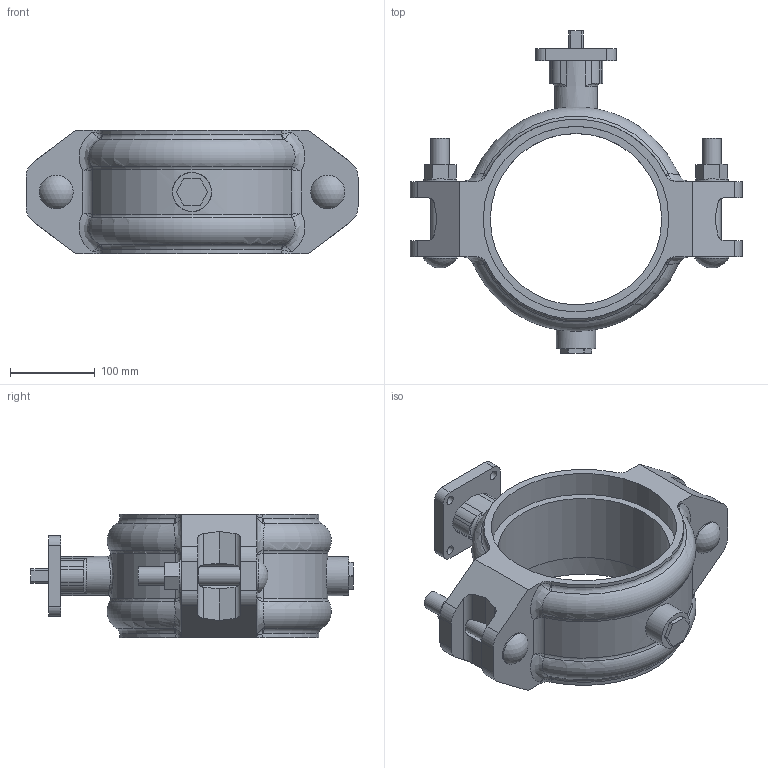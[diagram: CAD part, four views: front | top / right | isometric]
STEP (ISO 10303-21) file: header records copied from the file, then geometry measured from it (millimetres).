
FILE_DESCRIPTION(/* description */ ('VIC SS IR VALVE BUTTERFLY BARE SERIES 124 (OGS)','CAx-IF Rec.Pracs.---Representation and Presentation of Product Manufacturing Information (PMI)---4.0---2014-10-13'),/* implementation_level */ '2;1');
FILE_NAME(/* name */ 'C:\IR-124\step\Victaulic_SS-OGS_Valve Butterfly Bare_IR_Series 124 (OGS)\Victaulic_SS-OGS_Valve Butterfly Bare_IR_Series 124 (OGS)_8 (200).stp',/* time_stamp */ '2021-08-02T15:24:38+06:00',/* author */ ('Vjadhav'),/* organization */ ('Victaulic'),/* preprocessor_version */ 'ST-DEVELOPER v17.2',/* originating_system */ 'Autodesk Inventor 2019',/* authorisation */ '');
FILE_SCHEMA (('AP242_MANAGED_MODEL_BASED_3D_ENGINEERING_MIM_LF { 1 0 10303 442 1 1 4 }'));
Length unit declared in the file: inch
Products named in the file (1): 124-08.0
Bounding box: 392.18 x 380.75 x 145.54 mm (x, y, z)
Volume: 3937333 mm3; surface area: 366225.6 mm2
Topology: 1 solids, 1 shells, 214 faces, 580 edges, 366 vertices
Faces by surface type: plane 91, cylinder 65, bspline 44, torus 12, sphere 2
Full cylindrical faces by diameter (mm): 10.795 x4, 21.844 x4, 38.989 x2, 40.005 x2, 46.228 x1, 202.438 x1, 219.075 x2
Entity records: 9069 total; most frequent: CARTESIAN_POINT 3575, ORIENTED_EDGE 1128, DIRECTION 1004, EDGE_CURVE 564, VERTEX_POINT 366, AXIS2_PLACEMENT_3D 366, LINE 272, VECTOR 272
